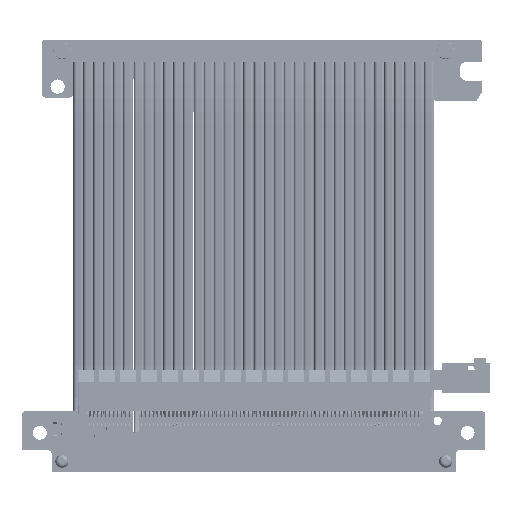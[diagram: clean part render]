
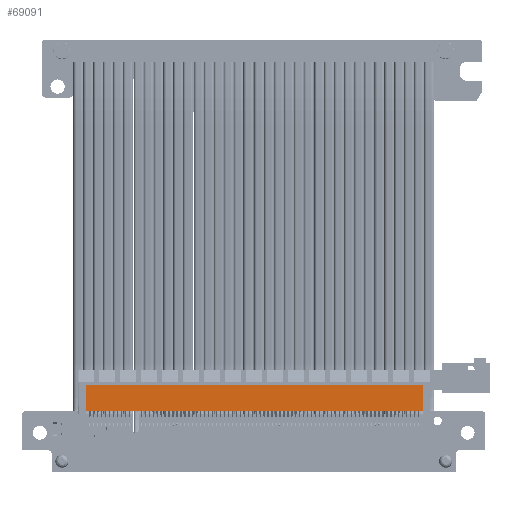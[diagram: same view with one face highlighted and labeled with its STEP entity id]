
A CAD part, top view. The second image highlights one B-rep face of the part: STEP entity #69091.
In plain terms, the highlighted planar face has unit normal (0, 0, 1) as drawn and (0, 0, -1) by its records, which use the part's own axes.
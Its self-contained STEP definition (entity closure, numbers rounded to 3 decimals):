
#69091 = ADVANCED_FACE('',(#69092),#69126,.F.);
#69092 = FACE_BOUND('',#69093,.T.);
#69093 = EDGE_LOOP('',(#69094,#69104,#69112,#69120));
#69094 = ORIENTED_EDGE('',*,*,#69095,.F.);
#69095 = EDGE_CURVE('',#69096,#69098,#69100,.T.);
#69096 = VERTEX_POINT('',#69097);
#69097 = CARTESIAN_POINT('',(-47.162,-7.333,-2.535));
#69098 = VERTEX_POINT('',#69099);
#69099 = CARTESIAN_POINT('',(37.838,-7.333,-2.535));
#69100 = LINE('',#69101,#69102);
#69101 = CARTESIAN_POINT('',(31.028,-7.333,-2.535));
#69102 = VECTOR('',#69103,1.);
#69103 = DIRECTION('',(1.,0.,0.));
#69104 = ORIENTED_EDGE('',*,*,#69105,.F.);
#69105 = EDGE_CURVE('',#69106,#69096,#69108,.T.);
#69106 = VERTEX_POINT('',#69107);
#69107 = CARTESIAN_POINT('',(-47.162,-0.883,-2.535));
#69108 = LINE('',#69109,#69110);
#69109 = CARTESIAN_POINT('',(-47.162,-0.883,-2.535));
#69110 = VECTOR('',#69111,1.);
#69111 = DIRECTION('',(0.,-1.,0.));
#69112 = ORIENTED_EDGE('',*,*,#69113,.F.);
#69113 = EDGE_CURVE('',#69114,#69106,#69116,.T.);
#69114 = VERTEX_POINT('',#69115);
#69115 = CARTESIAN_POINT('',(37.838,-0.883,-2.535));
#69116 = LINE('',#69117,#69118);
#69117 = CARTESIAN_POINT('',(37.838,-0.883,-2.535));
#69118 = VECTOR('',#69119,1.);
#69119 = DIRECTION('',(-1.,0.,0.));
#69120 = ORIENTED_EDGE('',*,*,#69121,.F.);
#69121 = EDGE_CURVE('',#69098,#69114,#69122,.T.);
#69122 = LINE('',#69123,#69124);
#69123 = CARTESIAN_POINT('',(37.838,-0.883,-2.535));
#69124 = VECTOR('',#69125,1.);
#69125 = DIRECTION('',(0.,1.,0.));
#69126 = PLANE('',#69127);
#69127 = AXIS2_PLACEMENT_3D('',#69128,#69129,#69130);
#69128 = CARTESIAN_POINT('',(37.838,-0.883,-2.535));
#69129 = DIRECTION('',(0.,0.,1.));
#69130 = DIRECTION('',(1.,0.,0.));
